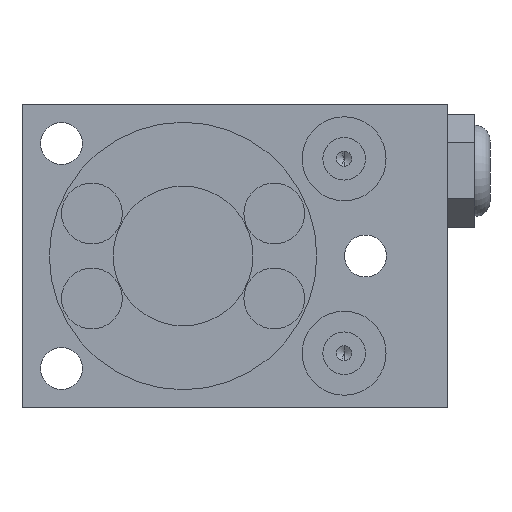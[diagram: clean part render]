
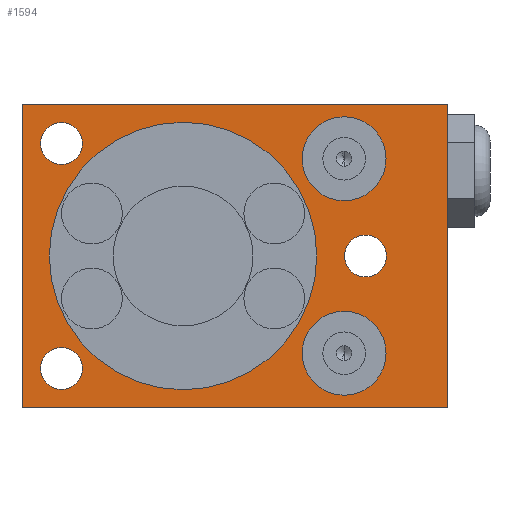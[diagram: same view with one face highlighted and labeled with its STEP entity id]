
A CAD part, front view. The second image highlights one B-rep face of the part: STEP entity #1594.
In plain terms, the highlighted planar face has unit normal (0, -1, 0).
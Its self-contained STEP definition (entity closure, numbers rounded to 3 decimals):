
#16 = LINE ( 'NONE', #1795, #1541 ) ;
#39 = CARTESIAN_POINT ( 'NONE',  ( 30., 48., 0. ) ) ;
#72 = DIRECTION ( 'NONE',  ( 0., 0., -1. ) ) ;
#91 = VERTEX_POINT ( 'NONE', #2597 ) ;
#104 = FACE_BOUND ( 'NONE', #1416, .T. ) ;
#105 = EDGE_CURVE ( 'NONE', #641, #2857, #753, .T. ) ;
#138 = AXIS2_PLACEMENT_3D ( 'NONE', #1706, #2170, #2394 ) ;
#227 = EDGE_CURVE ( 'NONE', #1459, #1108, #431, .T. ) ;
#265 = VERTEX_POINT ( 'NONE', #631 ) ;
#280 = DIRECTION ( 'NONE',  ( 0., -1., 0. ) ) ;
#308 = ORIENTED_EDGE ( 'NONE', *, *, #2523, .F. ) ;
#327 = CARTESIAN_POINT ( 'NONE',  ( -20., 48., -15.05 ) ) ;
#329 = DIRECTION ( 'NONE',  ( 0., 0., 1. ) ) ;
#416 = EDGE_LOOP ( 'NONE', ( #2710, #1138 ) ) ;
#426 = AXIS2_PLACEMENT_3D ( 'NONE', #2058, #1815, #2485 ) ;
#431 = CIRCLE ( 'NONE', #2114, 6.9 ) ;
#477 = ORIENTED_EDGE ( 'NONE', *, *, #615, .F. ) ;
#487 = LINE ( 'NONE', #562, #2259 ) ;
#502 = DIRECTION ( 'NONE',  ( 0., -1., 0. ) ) ;
#529 = PLANE ( 'NONE',  #1441 ) ;
#532 = EDGE_CURVE ( 'NONE', #1108, #1459, #2327, .T. ) ;
#539 = AXIS2_PLACEMENT_3D ( 'NONE', #971, #280, #2162 ) ;
#562 = CARTESIAN_POINT ( 'NONE',  ( 0., 48., 25. ) ) ;
#574 = DIRECTION ( 'NONE',  ( 0., 0., -1. ) ) ;
#583 = CARTESIAN_POINT ( 'NONE',  ( 0., 48., 0. ) ) ;
#602 = CIRCLE ( 'NONE', #682, 3.45 ) ;
#615 = EDGE_CURVE ( 'NONE', #91, #265, #487, .T. ) ;
#631 = CARTESIAN_POINT ( 'NONE',  ( 43.5, 48., 25. ) ) ;
#641 = VERTEX_POINT ( 'NONE', #2225 ) ;
#657 = ORIENTED_EDGE ( 'NONE', *, *, #877, .T. ) ;
#682 = AXIS2_PLACEMENT_3D ( 'NONE', #744, #1231, #990 ) ;
#706 = FACE_BOUND ( 'NONE', #1787, .T. ) ;
#713 = EDGE_CURVE ( 'NONE', #953, #1926, #2082, .T. ) ;
#729 = ORIENTED_EDGE ( 'NONE', *, *, #2984, .F. ) ;
#731 = CARTESIAN_POINT ( 'NONE',  ( -20., 48., -21.95 ) ) ;
#744 = CARTESIAN_POINT ( 'NONE',  ( -20., 48., 18.5 ) ) ;
#753 = CIRCLE ( 'NONE', #2269, 3.45 ) ;
#765 = DIRECTION ( 'NONE',  ( 0., 0., 1. ) ) ;
#771 = EDGE_CURVE ( 'NONE', #2857, #641, #866, .T. ) ;
#784 = FACE_BOUND ( 'NONE', #1066, .T. ) ;
#859 = CIRCLE ( 'NONE', #1312, 3.45 ) ;
#866 = CIRCLE ( 'NONE', #1301, 3.45 ) ;
#877 = EDGE_CURVE ( 'NONE', #1926, #953, #1505, .T. ) ;
#900 = DIRECTION ( 'NONE',  ( 0., 0., 1. ) ) ;
#933 = VECTOR ( 'NONE', #900, 1000. ) ;
#943 = CARTESIAN_POINT ( 'NONE',  ( -20., 48., 21.95 ) ) ;
#953 = VERTEX_POINT ( 'NONE', #2932 ) ;
#971 = CARTESIAN_POINT ( 'NONE',  ( 26.5, 48., 16. ) ) ;
#981 = CARTESIAN_POINT ( 'NONE',  ( -20., 48., -18.5 ) ) ;
#990 = DIRECTION ( 'NONE',  ( 0., 0., -1. ) ) ;
#1015 = DIRECTION ( 'NONE',  ( 0., -1., 0. ) ) ;
#1033 = EDGE_CURVE ( 'NONE', #2564, #1406, #2726, .T. ) ;
#1064 = EDGE_CURVE ( 'NONE', #2017, #91, #2194, .T. ) ;
#1066 = EDGE_LOOP ( 'NONE', ( #1786, #1177 ) ) ;
#1085 = ORIENTED_EDGE ( 'NONE', *, *, #771, .F. ) ;
#1108 = VERTEX_POINT ( 'NONE', #1852 ) ;
#1111 = DIRECTION ( 'NONE',  ( 0., -1., 0. ) ) ;
#1131 = CARTESIAN_POINT ( 'NONE',  ( -20., 48., -18.5 ) ) ;
#1138 = ORIENTED_EDGE ( 'NONE', *, *, #532, .F. ) ;
#1166 = DIRECTION ( 'NONE',  ( 0., 0., -1. ) ) ;
#1177 = ORIENTED_EDGE ( 'NONE', *, *, #1913, .F. ) ;
#1189 = CARTESIAN_POINT ( 'NONE',  ( 26.5, 48., -16. ) ) ;
#1214 = DIRECTION ( 'NONE',  ( 0., -1., 0. ) ) ;
#1231 = DIRECTION ( 'NONE',  ( 0., -1., 0. ) ) ;
#1258 = VERTEX_POINT ( 'NONE', #1681 ) ;
#1264 = CARTESIAN_POINT ( 'NONE',  ( 0., 48., 0. ) ) ;
#1301 = AXIS2_PLACEMENT_3D ( 'NONE', #2126, #1214, #574 ) ;
#1307 = VERTEX_POINT ( 'NONE', #1495 ) ;
#1312 = AXIS2_PLACEMENT_3D ( 'NONE', #981, #2621, #1444 ) ;
#1362 = EDGE_CURVE ( 'NONE', #2965, #2531, #2296, .T. ) ;
#1401 = CARTESIAN_POINT ( 'NONE',  ( -26.5, 48., 0. ) ) ;
#1406 = VERTEX_POINT ( 'NONE', #327 ) ;
#1416 = EDGE_LOOP ( 'NONE', ( #657, #2717 ) ) ;
#1422 = FACE_BOUND ( 'NONE', #416, .T. ) ;
#1439 = DIRECTION ( 'NONE',  ( 0., 0., -1. ) ) ;
#1441 = AXIS2_PLACEMENT_3D ( 'NONE', #1264, #2659, #2455 ) ;
#1444 = DIRECTION ( 'NONE',  ( 0., 0., -1. ) ) ;
#1448 = EDGE_LOOP ( 'NONE', ( #477, #2113, #1928, #1682 ) ) ;
#1454 = EDGE_CURVE ( 'NONE', #2531, #2965, #1796, .T. ) ;
#1459 = VERTEX_POINT ( 'NONE', #2383 ) ;
#1471 = DIRECTION ( 'NONE',  ( 0., 0., -1. ) ) ;
#1495 = CARTESIAN_POINT ( 'NONE',  ( 43.5, 48., -25. ) ) ;
#1505 = CIRCLE ( 'NONE', #426, 22. ) ;
#1508 = DIRECTION ( 'NONE',  ( 1., 0., 0. ) ) ;
#1541 = VECTOR ( 'NONE', #2266, 1000. ) ;
#1572 = ORIENTED_EDGE ( 'NONE', *, *, #1454, .F. ) ;
#1594 = ADVANCED_FACE ( 'NONE', ( #1422, #1977, #784, #2580, #706, #104, #2508 ), #529, .F. ) ;
#1668 = CARTESIAN_POINT ( 'NONE',  ( 0., 48., -22. ) ) ;
#1681 = CARTESIAN_POINT ( 'NONE',  ( -20., 48., 15.05 ) ) ;
#1682 = ORIENTED_EDGE ( 'NONE', *, *, #2522, .T. ) ;
#1695 = AXIS2_PLACEMENT_3D ( 'NONE', #1131, #1877, #1166 ) ;
#1706 = CARTESIAN_POINT ( 'NONE',  ( 26.5, 48., 16. ) ) ;
#1786 = ORIENTED_EDGE ( 'NONE', *, *, #1033, .F. ) ;
#1787 = EDGE_LOOP ( 'NONE', ( #729, #308 ) ) ;
#1795 = CARTESIAN_POINT ( 'NONE',  ( 0., 48., -25. ) ) ;
#1796 = CIRCLE ( 'NONE', #539, 6.9 ) ;
#1815 = DIRECTION ( 'NONE',  ( 0., 1., 0. ) ) ;
#1832 = VECTOR ( 'NONE', #765, 1000. ) ;
#1852 = CARTESIAN_POINT ( 'NONE',  ( 26.5, 48., -9.1 ) ) ;
#1877 = DIRECTION ( 'NONE',  ( 0., -1., 0. ) ) ;
#1913 = EDGE_CURVE ( 'NONE', #1406, #2564, #859, .T. ) ;
#1926 = VERTEX_POINT ( 'NONE', #1668 ) ;
#1928 = ORIENTED_EDGE ( 'NONE', *, *, #2159, .T. ) ;
#1971 = EDGE_LOOP ( 'NONE', ( #2771, #1085 ) ) ;
#1977 = FACE_BOUND ( 'NONE', #2802, .T. ) ;
#1988 = DIRECTION ( 'NONE',  ( 0., 1., 0. ) ) ;
#2016 = CIRCLE ( 'NONE', #2110, 3.45 ) ;
#2017 = VERTEX_POINT ( 'NONE', #2686 ) ;
#2058 = CARTESIAN_POINT ( 'NONE',  ( 0., 48., 0. ) ) ;
#2061 = DIRECTION ( 'NONE',  ( 0., 0., -1. ) ) ;
#2082 = CIRCLE ( 'NONE', #2157, 22. ) ;
#2110 = AXIS2_PLACEMENT_3D ( 'NONE', #2192, #1015, #72 ) ;
#2113 = ORIENTED_EDGE ( 'NONE', *, *, #1064, .F. ) ;
#2114 = AXIS2_PLACEMENT_3D ( 'NONE', #2498, #1111, #2061 ) ;
#2125 = CARTESIAN_POINT ( 'NONE',  ( 26.5, 48., 22.9 ) ) ;
#2126 = CARTESIAN_POINT ( 'NONE',  ( 30., 48., 0. ) ) ;
#2157 = AXIS2_PLACEMENT_3D ( 'NONE', #583, #1988, #329 ) ;
#2159 = EDGE_CURVE ( 'NONE', #2017, #1307, #16, .T. ) ;
#2162 = DIRECTION ( 'NONE',  ( 0., 0., -1. ) ) ;
#2163 = CARTESIAN_POINT ( 'NONE',  ( 26.5, 48., 9.1 ) ) ;
#2170 = DIRECTION ( 'NONE',  ( 0., -1., 0. ) ) ;
#2192 = CARTESIAN_POINT ( 'NONE',  ( -20., 48., 18.5 ) ) ;
#2194 = LINE ( 'NONE', #1401, #933 ) ;
#2225 = CARTESIAN_POINT ( 'NONE',  ( 30., 48., -3.45 ) ) ;
#2259 = VECTOR ( 'NONE', #1508, 1000. ) ;
#2266 = DIRECTION ( 'NONE',  ( 1., 0., 0. ) ) ;
#2269 = AXIS2_PLACEMENT_3D ( 'NONE', #39, #502, #1471 ) ;
#2296 = CIRCLE ( 'NONE', #138, 6.9 ) ;
#2327 = CIRCLE ( 'NONE', #2907, 6.9 ) ;
#2361 = LINE ( 'NONE', #2828, #1832 ) ;
#2383 = CARTESIAN_POINT ( 'NONE',  ( 26.5, 48., -22.9 ) ) ;
#2394 = DIRECTION ( 'NONE',  ( 0., 0., -1. ) ) ;
#2455 = DIRECTION ( 'NONE',  ( 0., 0., 1. ) ) ;
#2485 = DIRECTION ( 'NONE',  ( 0., 0., 1. ) ) ;
#2498 = CARTESIAN_POINT ( 'NONE',  ( 26.5, 48., -16. ) ) ;
#2508 = FACE_OUTER_BOUND ( 'NONE', #1448, .T. ) ;
#2509 = CARTESIAN_POINT ( 'NONE',  ( 30., 48., 3.45 ) ) ;
#2522 = EDGE_CURVE ( 'NONE', #1307, #265, #2361, .T. ) ;
#2523 = EDGE_CURVE ( 'NONE', #2920, #1258, #602, .T. ) ;
#2531 = VERTEX_POINT ( 'NONE', #2163 ) ;
#2564 = VERTEX_POINT ( 'NONE', #731 ) ;
#2580 = FACE_BOUND ( 'NONE', #1971, .T. ) ;
#2597 = CARTESIAN_POINT ( 'NONE',  ( -26.5, 48., 25. ) ) ;
#2621 = DIRECTION ( 'NONE',  ( 0., -1., 0. ) ) ;
#2659 = DIRECTION ( 'NONE',  ( 0., 1., 0. ) ) ;
#2686 = CARTESIAN_POINT ( 'NONE',  ( -26.5, 48., -25. ) ) ;
#2710 = ORIENTED_EDGE ( 'NONE', *, *, #227, .F. ) ;
#2717 = ORIENTED_EDGE ( 'NONE', *, *, #713, .T. ) ;
#2726 = CIRCLE ( 'NONE', #1695, 3.45 ) ;
#2771 = ORIENTED_EDGE ( 'NONE', *, *, #105, .F. ) ;
#2802 = EDGE_LOOP ( 'NONE', ( #1572, #2928 ) ) ;
#2807 = DIRECTION ( 'NONE',  ( 0., -1., 0. ) ) ;
#2828 = CARTESIAN_POINT ( 'NONE',  ( 43.5, 48., 0. ) ) ;
#2857 = VERTEX_POINT ( 'NONE', #2509 ) ;
#2907 = AXIS2_PLACEMENT_3D ( 'NONE', #1189, #2807, #1439 ) ;
#2920 = VERTEX_POINT ( 'NONE', #943 ) ;
#2928 = ORIENTED_EDGE ( 'NONE', *, *, #1362, .F. ) ;
#2932 = CARTESIAN_POINT ( 'NONE',  ( 0., 48., 22. ) ) ;
#2965 = VERTEX_POINT ( 'NONE', #2125 ) ;
#2984 = EDGE_CURVE ( 'NONE', #1258, #2920, #2016, .T. ) ;
